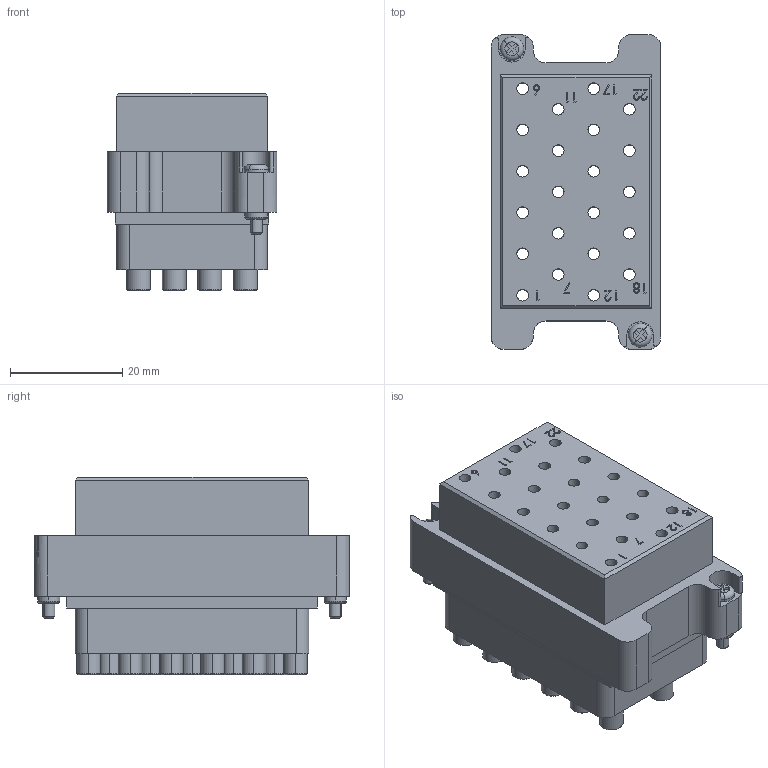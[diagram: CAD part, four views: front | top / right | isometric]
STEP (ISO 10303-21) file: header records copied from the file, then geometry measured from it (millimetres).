
FILE_DESCRIPTION (( 'STEP AP214' ), '1' );
FILE_NAME ('510160133.STEP', '2026-09-17T18:22:35', ( 'VPC Computer Systems' ), ( 'Virginia Panel Corporation' ), 'SwSTEP 2.0', 'SolidWorks 2026', '' );
FILE_SCHEMA (( 'AUTOMOTIVE_DESIGN' ));
Length unit declared in the file: inch
Products named in the file (1): 510160133
Bounding box: 30.23 x 56.13 x 35.26 mm (x, y, z)
Volume: 38061.2 mm3; surface area: 16461.6 mm2
Topology: 1 solids, 2 shells, 487 faces, 1219 edges, 790 vertices
Faces by surface type: plane 193, cylinder 186, cone 52, bspline 44, torus 12
Entity records: 17294 total; most frequent: CARTESIAN_POINT 5317, DIRECTION 2471, ORIENTED_EDGE 2438, EDGE_CURVE 1219, AXIS2_PLACEMENT_3D 896, VERTEX_POINT 790, VECTOR 679, LINE 679
